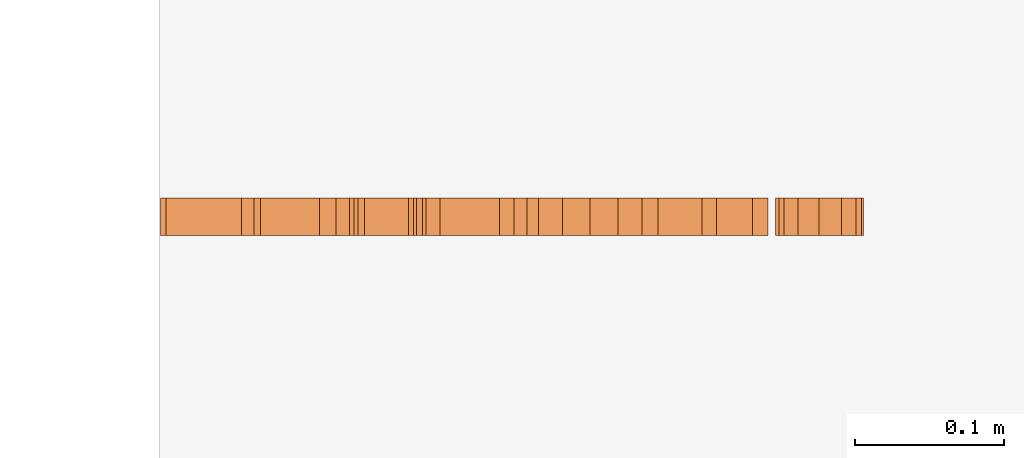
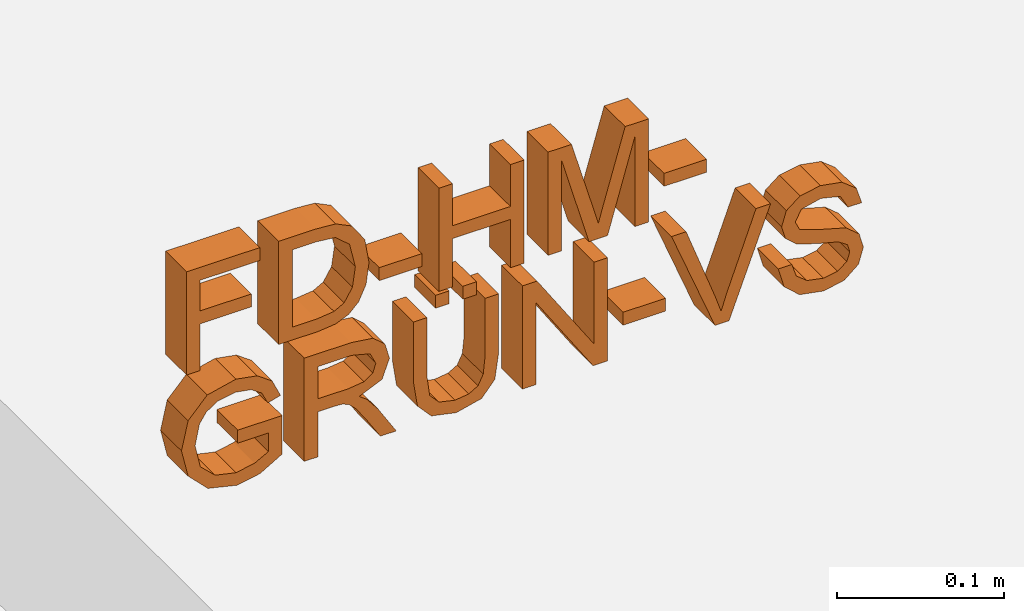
# Not in any storey, part 2 of 2: 1 proxy.
"""IFC4 model written with IfcOpenShell, lengths in metres."""

from ifc_helpers import new_model, entity, si_unit, converted_unit, derived_unit, direction, frame, origin, place, context, subcontext, project, spatial, indexed_curve, outline, extrude, type_object, element, save


model = new_model("IFC4")

# Units and contexts
model_context = context("Model", 3, precision=1e-05, world=origin(), true_north=direction((6.123031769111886e-17, 1.0)))
body_context = subcontext(model_context, "Body", "Model", "MODEL_VIEW")
ifc_project = project(units=[si_unit("LENGTHUNIT", "METRE"), si_unit("AREAUNIT", "SQUARE_METRE"), si_unit("VOLUMEUNIT", "CUBIC_METRE"), converted_unit("PLANEANGLEUNIT", "DEGREE", entity("IfcRatioMeasure", 0.017453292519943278), si_unit("PLANEANGLEUNIT", "RADIAN"), dimensions=[0, 0, 0, 0, 0, 0, 0]), si_unit("MASSUNIT", "GRAM", prefix="KILO"), derived_unit("MASSDENSITYUNIT", [(si_unit("MASSUNIT", "GRAM", prefix="KILO"), 1), (si_unit("LENGTHUNIT", "METRE"), -3)]), derived_unit("IONCONCENTRATIONUNIT", [(si_unit("MASSUNIT", "GRAM", prefix="KILO"), 1), (si_unit("LENGTHUNIT", "METRE"), -3)]), derived_unit("MOMENTOFINERTIAUNIT", [(si_unit("LENGTHUNIT", "METRE"), 4)]), si_unit("TIMEUNIT", "SECOND"), si_unit("FREQUENCYUNIT", "HERTZ"), si_unit("THERMODYNAMICTEMPERATUREUNIT", "DEGREE_CELSIUS"), derived_unit("THERMALTRANSMITTANCEUNIT", [(si_unit("MASSUNIT", "GRAM", prefix="KILO"), 1), (si_unit("THERMODYNAMICTEMPERATUREUNIT", "KELVIN"), -1), (si_unit("TIMEUNIT", "SECOND"), -3)]), derived_unit("THERMALCONDUCTANCEUNIT", [(si_unit("MASSUNIT", "GRAM", prefix="KILO"), 1), (si_unit("THERMODYNAMICTEMPERATUREUNIT", "KELVIN"), -1), (si_unit("TIMEUNIT", "SECOND"), -3), (si_unit("LENGTHUNIT", "METRE"), 1)]), derived_unit("VOLUMETRICFLOWRATEUNIT", [(si_unit("LENGTHUNIT", "METRE"), 3), (si_unit("TIMEUNIT", "SECOND"), -1)]), derived_unit("MASSFLOWRATEUNIT", [(si_unit("MASSUNIT", "GRAM", prefix="KILO"), 1), (si_unit("TIMEUNIT", "SECOND"), -1)]), derived_unit("ROTATIONALFREQUENCYUNIT", [(si_unit("TIMEUNIT", "SECOND"), -1)]), si_unit("ELECTRICCURRENTUNIT", "AMPERE"), si_unit("ELECTRICVOLTAGEUNIT", "VOLT"), si_unit("POWERUNIT", "WATT"), si_unit("FORCEUNIT", "NEWTON", prefix="KILO"), si_unit("ILLUMINANCEUNIT", "LUX"), si_unit("LUMINOUSFLUXUNIT", "LUMEN"), si_unit("LUMINOUSINTENSITYUNIT", "CANDELA"), derived_unit("USERDEFINED", [(si_unit("MASSUNIT", "GRAM", prefix="KILO"), -1), (si_unit("LENGTHUNIT", "METRE"), -2), (si_unit("TIMEUNIT", "SECOND"), 3), (si_unit("LUMINOUSFLUXUNIT", "LUMEN"), 1)]), derived_unit("USERDEFINED", [(si_unit("MASSUNIT", "GRAM", prefix="KILO"), 1), (si_unit("TIMEUNIT", "SECOND"), -3), (si_unit("LENGTHUNIT", "METRE"), 3), (si_unit("ELECTRICCURRENTUNIT", "AMPERE"), -2)]), derived_unit("SOUNDPOWERUNIT", [(si_unit("MASSUNIT", "GRAM", prefix="KILO"), 1), (si_unit("TIMEUNIT", "SECOND"), -3), (si_unit("LENGTHUNIT", "METRE"), 2)]), derived_unit("SOUNDPRESSUREUNIT", [(si_unit("MASSUNIT", "GRAM", prefix="KILO"), 1), (si_unit("LENGTHUNIT", "METRE"), -1), (si_unit("TIMEUNIT", "SECOND"), -2)]), derived_unit("LINEARVELOCITYUNIT", [(si_unit("LENGTHUNIT", "METRE"), 1), (si_unit("TIMEUNIT", "SECOND"), -1)]), si_unit("PRESSUREUNIT", "PASCAL"), derived_unit("USERDEFINED", [(si_unit("MASSUNIT", "GRAM", prefix="KILO"), 1), (si_unit("LENGTHUNIT", "METRE"), -2), (si_unit("TIMEUNIT", "SECOND"), -2)]), derived_unit("LINEARFORCEUNIT", [(si_unit("MASSUNIT", "GRAM", prefix="KILO"), 1), (si_unit("TIMEUNIT", "SECOND"), -2)]), derived_unit("PLANARFORCEUNIT", [(si_unit("MASSUNIT", "GRAM", prefix="KILO"), 1), (si_unit("LENGTHUNIT", "METRE"), -1), (si_unit("TIMEUNIT", "SECOND"), -2)]), derived_unit("SPECIFICHEATCAPACITYUNIT", [(si_unit("THERMODYNAMICTEMPERATUREUNIT", "KELVIN"), -1), (si_unit("LENGTHUNIT", "METRE"), 2), (si_unit("TIMEUNIT", "SECOND"), -2)]), derived_unit("HEATINGVALUEUNIT", [(si_unit("LENGTHUNIT", "METRE"), 2), (si_unit("TIMEUNIT", "SECOND"), -2)]), derived_unit("VAPORPERMEABILITYUNIT", [(si_unit("LENGTHUNIT", "METRE"), -1), (si_unit("TIMEUNIT", "SECOND"), 1)]), derived_unit("DYNAMICVISCOSITYUNIT", [(si_unit("MASSUNIT", "GRAM", prefix="KILO"), 1), (si_unit("TIMEUNIT", "SECOND"), -1), (si_unit("LENGTHUNIT", "METRE"), -1)]), derived_unit("THERMALEXPANSIONCOEFFICIENTUNIT", [(si_unit("THERMODYNAMICTEMPERATUREUNIT", "KELVIN"), -1)]), derived_unit("MODULUSOFELASTICITYUNIT", [(si_unit("MASSUNIT", "GRAM", prefix="KILO"), 1), (si_unit("LENGTHUNIT", "METRE"), -1), (si_unit("TIMEUNIT", "SECOND"), -2)]), derived_unit("ISOTHERMALMOISTURECAPACITYUNIT", [(si_unit("LENGTHUNIT", "METRE"), 3), (si_unit("MASSUNIT", "GRAM", prefix="KILO"), -1)]), derived_unit("MOISTUREDIFFUSIVITYUNIT", [(si_unit("TIMEUNIT", "SECOND"), -1), (si_unit("LENGTHUNIT", "METRE"), 2)])], contexts=[model_context])

# Site
site_placement = place(None, origin())
site = spatial("IfcSite", under=ifc_project, at=site_placement, Name="Default", CompositionType="ELEMENT")

# Proxy
building_element_proxy_type = type_object("IfcBuildingElementProxyType", Name="Modelltext:075mm Arial", PredefinedType="NOTDEFINED")
proxy_placement = place(site_placement, origin())
element("IfcBuildingElementProxy", 1, at=proxy_placement, inside=site, type_object=building_element_proxy_type, Name="Modelltext:075mm Arial", ObjectType="Modelltext:075mm Arial", PredefinedType="NOTDEFINED", context=body_context, shape_type="SweptSolid", body=[
    extrude(outline(indexed_curve([(-0.04379267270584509, -0.022838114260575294), (0.03154955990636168, -0.022838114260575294), (0.03154955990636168, 0.0277824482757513), (0.022131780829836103, 0.0277824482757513), (0.022131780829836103, -0.013420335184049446), (-0.00023544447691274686, -0.013420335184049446), (-0.00023544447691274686, 0.021896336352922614), (-0.009653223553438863, 0.021896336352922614), (-0.009653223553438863, -0.013420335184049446), (-0.04379267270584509, -0.013420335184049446), (-0.04379267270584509, -0.022838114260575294)], self_intersect=False)), frame((-0.5568331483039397, 42.83439223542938, -2.496558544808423), z_axis=(0.0, 1.0, 0.0), x_axis=(0.0, 0.0, 1.0)), (0.0, 0.0, 1.0), 0.025000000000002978),
    extrude(outline(indexed_curve([(-0.03575046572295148, -0.03902844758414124), (0.039591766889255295, -0.03902844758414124), (0.039591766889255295, -0.013037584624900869), (0.03850651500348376, 0.0004085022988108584), (0.03311704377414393, 0.011481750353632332), (0.02024117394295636, 0.020402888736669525), (0.0023253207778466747, 0.023364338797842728), (-0.012877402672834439, 0.021359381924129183), (-0.023849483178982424, 0.016209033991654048), (-0.030682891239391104, 0.00932964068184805), (-0.03446287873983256, 0.00032572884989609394), (-0.03575046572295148, -0.011786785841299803), (-0.03575046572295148, -0.03902844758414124)], self_intersect=False), holes=[indexed_curve([(-0.02633268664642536, -0.029610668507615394), (-0.02633268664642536, -0.012945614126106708), (-0.024971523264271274, -0.0008239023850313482), (-0.021127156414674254, 0.006165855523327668), (-0.011773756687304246, 0.011895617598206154), (0.002472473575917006, 0.013946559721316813), (0.020314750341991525, 0.009927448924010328), (0.02866567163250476, 0.0001509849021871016), (0.03017398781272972, -0.013203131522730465), (0.03017398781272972, -0.029610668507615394), (-0.02633268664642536, -0.029610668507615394)], self_intersect=False)]), frame((-0.4770728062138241, 42.83439223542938, -2.5046007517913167), z_axis=(0.0, 1.0, 0.0), x_axis=(0.0, 0.0, 1.0)), (0.0, 0.0, 1.0), 0.025000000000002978),
    extrude(outline(indexed_curve([(-0.012499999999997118, -0.014715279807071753), (0.012500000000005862, -0.014715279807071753), (0.01250000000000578, 0.014715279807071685), (-0.012499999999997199, 0.014715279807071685), (-0.012499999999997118, -0.014715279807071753)], self_intersect=False)), frame((-0.4319298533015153, 42.846892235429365, -2.5179839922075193), z_axis=(0.0, 0.0, 1.0), x_axis=(0.0, 1.0, 0.0)), (0.0, 0.0, 1.0), 0.009417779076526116),
    extrude(outline(indexed_curve([(-0.03845593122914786, -0.02943055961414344), (0.03688630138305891, -0.02943055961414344), (0.03688630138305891, -0.020012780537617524), (0.0062785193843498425, -0.020012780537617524), (0.0062785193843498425, 0.02001278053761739), (0.03688630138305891, 0.02001278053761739), (0.03688630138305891, 0.029430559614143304), (-0.03845593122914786, 0.029430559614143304), (-0.03845593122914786, 0.02001278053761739), (-0.003139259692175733, 0.02001278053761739), (-0.003139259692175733, -0.020012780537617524), (-0.03845593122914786, -0.020012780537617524), (-0.03845593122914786, -0.02943055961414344)], self_intersect=False)), frame((-0.37601179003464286, 42.83439223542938, -2.5018952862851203), z_axis=(0.0, 1.0, 0.0), x_axis=(0.0, 0.0, 1.0)), (0.0, 0.0, 1.0), 0.025000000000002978),
    extrude(outline(indexed_curve([(-0.032650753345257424, -0.03474522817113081), (0.04269147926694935, -0.03474522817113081), (0.04269147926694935, -0.01854002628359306), (-0.010412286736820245, -0.003125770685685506), (-0.021503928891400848, -1.7167826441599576e-05), (-0.009492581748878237, 0.00334895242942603), (0.04269147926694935, 0.01850569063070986), (0.04269147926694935, 0.03471089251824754), (-0.032650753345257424, 0.03471089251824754), (-0.032650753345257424, 0.025293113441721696), (0.03327370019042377, 0.025293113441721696), (-0.032650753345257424, 0.006365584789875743), (-0.032650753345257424, -0.006399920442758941), (0.03327370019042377, -0.025327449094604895), (-0.032650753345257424, -0.025327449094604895), (-0.032650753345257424, -0.03474522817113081)], self_intersect=False)), frame((-0.2953548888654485, 42.83439223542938, -2.5077004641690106), z_axis=(0.0, 1.0, 0.0), x_axis=(0.0, 0.0, 1.0)), (0.0, 0.0, 1.0), 0.025000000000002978),
    extrude(outline(indexed_curve([(-0.012499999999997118, -0.014715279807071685), (0.012500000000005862, -0.014715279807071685), (0.01250000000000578, 0.014715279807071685), (-0.012499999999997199, 0.014715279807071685), (-0.012499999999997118, -0.014715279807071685)], self_intersect=False)), frame((-0.23533371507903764, 42.846892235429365, -2.5179839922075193), z_axis=(0.0, 0.0, 1.0), x_axis=(0.0, 1.0, 0.0)), (0.0, 0.0, 1.0), 0.009417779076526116),
    extrude(outline(indexed_curve([(-0.009631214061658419, 0.0014347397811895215), (-0.00021343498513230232, 0.0014347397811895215), (-0.00021343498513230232, 0.03204252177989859), (-0.02837480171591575, 0.03204252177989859), (-0.037259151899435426, 0.01693176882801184), (-0.04023899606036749, 0.0009564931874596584), (-0.035502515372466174, -0.019157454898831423), (-0.02178971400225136, -0.0328058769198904), (-0.0017585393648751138, -0.03741359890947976), (0.01872329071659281, -0.03282427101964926), (0.032840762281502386, -0.01962650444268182), (0.03745768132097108, 0.00020233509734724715), (0.034781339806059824, 0.014936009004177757), (0.027331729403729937, 0.025264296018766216), (0.014869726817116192, 0.030957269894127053), (0.012423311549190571, 0.02227525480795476), (0.02113291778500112, 0.017980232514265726), (0.02615450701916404, 0.010640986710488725), (0.028039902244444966, 5.518229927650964e-05), (0.026007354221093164, -0.01200215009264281), (0.020673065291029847, -0.02020591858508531), (0.013416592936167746, -0.025052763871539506), (-0.0013722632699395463, -0.02799581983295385), (-0.01778899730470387, -0.024454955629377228), (-0.027611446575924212, -0.014154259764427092), (-0.03082121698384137, 0.00020233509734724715), (-0.028402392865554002, 0.013087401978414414), (-0.02324284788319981, 0.022624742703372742), (-0.009631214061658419, 0.022624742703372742), (-0.009631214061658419, 0.0014347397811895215)], self_intersect=False)), frame((-0.5457893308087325, 42.834392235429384, -2.5927705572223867), z_axis=(0.0, 1.0, 0.0), x_axis=(0.0, 0.0, 1.0)), (0.0, 0.0, 1.0), 0.025000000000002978),
    extrude(outline(indexed_curve([(-0.03376914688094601, -0.035363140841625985), (0.04157308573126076, -0.035363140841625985), (0.04157308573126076, -0.0028975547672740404), (0.03954053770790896, 0.012176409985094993), (0.03234844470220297, 0.02041696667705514), (0.020953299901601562, 0.023497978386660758), (0.007378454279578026, 0.018393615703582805), (0.00037030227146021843, 0.0026206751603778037), (-0.003658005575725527, 0.007973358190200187), (-0.013351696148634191, 0.015606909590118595), (-0.03376914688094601, 0.02817007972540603), (-0.03376914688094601, 0.017225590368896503), (-0.018152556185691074, 0.007421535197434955), (-0.007815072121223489, 0.00033980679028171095), (-0.0029314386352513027, -0.0046357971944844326), (-0.0011380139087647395, -0.009114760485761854), (-0.0008069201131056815, -0.014577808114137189), (-0.0008069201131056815, -0.02594536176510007), (-0.03376914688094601, -0.02594536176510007), (-0.03376914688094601, -0.035363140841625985)], self_intersect=False), holes=[indexed_curve([(0.008610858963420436, -0.02594536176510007), (0.008610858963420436, -0.004865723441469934), (0.009944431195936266, 0.005885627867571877), (0.014211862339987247, 0.011992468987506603), (0.020603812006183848, 0.014080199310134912), (0.028899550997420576, 0.010097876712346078), (0.032155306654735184, -0.002492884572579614), (0.032155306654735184, -0.02594536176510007), (0.008610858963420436, -0.02594536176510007)], self_intersect=False)]), frame((-0.4630797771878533, 42.83439223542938, -2.598063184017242), z_axis=(0.0, 1.0, 0.0), x_axis=(0.0, 0.0, 1.0)), (0.0, 0.0, 1.0), 0.025000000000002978),
    extrude(outline(indexed_curve([(-0.012499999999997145, -0.004708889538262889), (0.012500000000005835, -0.004708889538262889), (0.012500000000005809, 0.004708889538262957), (-0.012499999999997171, 0.004708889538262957), (-0.012499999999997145, -0.004708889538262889)], self_intersect=False)), frame((-0.40308790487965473, 42.846892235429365, -2.5517812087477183), z_axis=(0.0, 0.0, 1.0), x_axis=(0.0, 1.0, 0.0)), (0.0, 0.0, 1.0), 0.009417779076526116),
    extrude(outline(indexed_curve([(-0.03767295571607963, -0.02943055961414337), (0.03766927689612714, -0.02943055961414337), (0.03766927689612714, -0.019350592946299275), (-0.022019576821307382, 0.02001278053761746), (0.03766927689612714, 0.02001278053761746), (0.03766927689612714, 0.029430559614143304), (-0.03767295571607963, 0.029430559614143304), (-0.03767295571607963, 0.019350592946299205), (0.02203429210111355, -0.020012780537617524), (-0.03767295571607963, -0.020012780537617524), (-0.03767295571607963, -0.02943055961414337)], self_intersect=False)), frame((-0.31832789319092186, 42.83439223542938, -2.594159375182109), z_axis=(0.0, 1.0, 0.0), x_axis=(0.0, 0.0, 1.0)), (0.0, 0.0, 1.0), 0.025000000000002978),
    extrude(outline(indexed_curve([(-0.012499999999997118, -0.014715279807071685), (0.012500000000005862, -0.014715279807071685), (0.01250000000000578, 0.014715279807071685), (-0.012499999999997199, 0.014715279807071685), (-0.012499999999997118, -0.014715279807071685)], self_intersect=False)), frame((-0.26358705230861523, 42.846892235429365, -2.6094651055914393), z_axis=(0.0, 0.0, 1.0), x_axis=(0.0, 1.0, 0.0)), (0.0, 0.0, 1.0), 0.009417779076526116),
    extrude(outline(indexed_curve([(-0.03475834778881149, -0.018530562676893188), (0.046330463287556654, -0.01853056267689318), (0.0426034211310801, -0.009164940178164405), (-0.015250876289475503, -0.01058940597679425), (-0.028119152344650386, -0.011335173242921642), (-0.018236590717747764, -0.003086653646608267), (0.024757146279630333, 0.035680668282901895), (0.021030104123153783, 0.045046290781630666), (-0.038356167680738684, -0.009489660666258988), (-0.03475834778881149, -0.018530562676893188)], self_intersect=False)), frame((-0.210477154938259, 42.83439223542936, -2.5926855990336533), z_axis=(0.0, 1.0, 0.0), x_axis=(-0.36974746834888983, 0.0, 0.9291322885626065)), (0.0, 0.0, 1.0), 0.025000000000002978),
    extrude(outline(indexed_curve([(-0.03029298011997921, 0.011054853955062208), (-0.020875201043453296, 0.011054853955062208), (-0.017840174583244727, 0.020481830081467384), (-0.010427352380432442, 0.026441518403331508), (0.0008666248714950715, 0.028713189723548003), (0.010707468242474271, 0.026993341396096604), (0.017062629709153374, 0.02226605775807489), (0.019150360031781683, 0.015947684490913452), (0.017586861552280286, 0.010070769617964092), (0.011185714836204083, 0.005794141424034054), (-0.002527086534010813, 0.002198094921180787), (-0.01728835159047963, -0.002446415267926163), (-0.02529898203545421, -0.009454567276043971), (-0.02793853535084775, -0.01881716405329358), (-0.024673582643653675, -0.029476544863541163), (-0.015136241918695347, -0.036999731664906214), (-0.0011751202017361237, -0.03956570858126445), (0.013724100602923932, -0.0368801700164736), (0.02365691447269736, -0.02898910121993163), (0.027390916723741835, -0.017198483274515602), (0.01797313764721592, -0.017198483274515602), (0.012638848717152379, -0.02687377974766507), (-0.0008072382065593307, -0.030147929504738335), (-0.014290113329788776, -0.026910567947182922), (-0.018520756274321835, -0.019093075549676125), (-0.015522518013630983, -0.012563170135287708), (-0.00014505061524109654, -0.007302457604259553), (0.016520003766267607, -0.0025751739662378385), (0.025634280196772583, 0.005058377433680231), (0.02856813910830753, 0.01570856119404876), (0.025192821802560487, 0.026974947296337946), (0.015480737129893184, 0.03519710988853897), (0.0012345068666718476, 0.03813096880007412), (-0.015586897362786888, 0.03496718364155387), (-0.02622788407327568, 0.025439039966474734), (-0.03029298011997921, 0.011054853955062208)], self_intersect=False)), frame((-0.14088211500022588, 42.834392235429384, -2.59487858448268), z_axis=(0.0, 1.0, 0.0), x_axis=(1.0, 0.0, 0.0)), (0.0, 0.0, 1.0), 0.025000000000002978),
    extrude(outline(indexed_curve([(0.019305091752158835, -0.04688825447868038), (0.028722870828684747, -0.04688825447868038), (0.028722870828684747, -0.0034229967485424), (0.02616609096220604, 0.014594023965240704), (0.016950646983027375, 0.025446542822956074), (-0.0005237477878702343, 0.02963120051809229), (-0.017731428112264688, 0.025989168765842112), (-0.027277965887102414, 0.015440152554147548), (-0.030138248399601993, -0.0034229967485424), (-0.030138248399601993, -0.04688825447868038), (-0.020720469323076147, -0.04688825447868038), (-0.020720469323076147, -0.0037540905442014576), (-0.01886266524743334, 0.010602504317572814), (-0.012479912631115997, 0.01771182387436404), (-0.001406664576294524, 0.02021342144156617), (0.008172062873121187, 0.018976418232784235), (0.014541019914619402, 0.01526540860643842), (0.01811407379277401, 0.008036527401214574), (0.019305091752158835, -0.0037540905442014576), (0.019305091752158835, -0.04688825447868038)], self_intersect=False)), frame((-0.3929624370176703, 42.83439223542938, -2.6033783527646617), z_axis=(0.0, 1.0, 0.0), x_axis=(1.0, 0.0, 0.0)), (0.0, 0.0, 1.0), 0.025000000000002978),
    extrude(outline(indexed_curve([(-0.012499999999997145, -0.004708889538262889), (0.012500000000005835, -0.004708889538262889), (0.012500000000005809, 0.004708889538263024), (-0.012499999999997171, 0.004708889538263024), (-0.012499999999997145, -0.004708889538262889)], self_intersect=False)), frame((-0.3842523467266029, 42.846892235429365, -2.5517812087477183), z_axis=(0.0, 0.0, 1.0), x_axis=(0.0, 1.0, 0.0)), (0.0, 0.0, 1.0), 0.009417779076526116),
])

save(model, "model.ifc")
